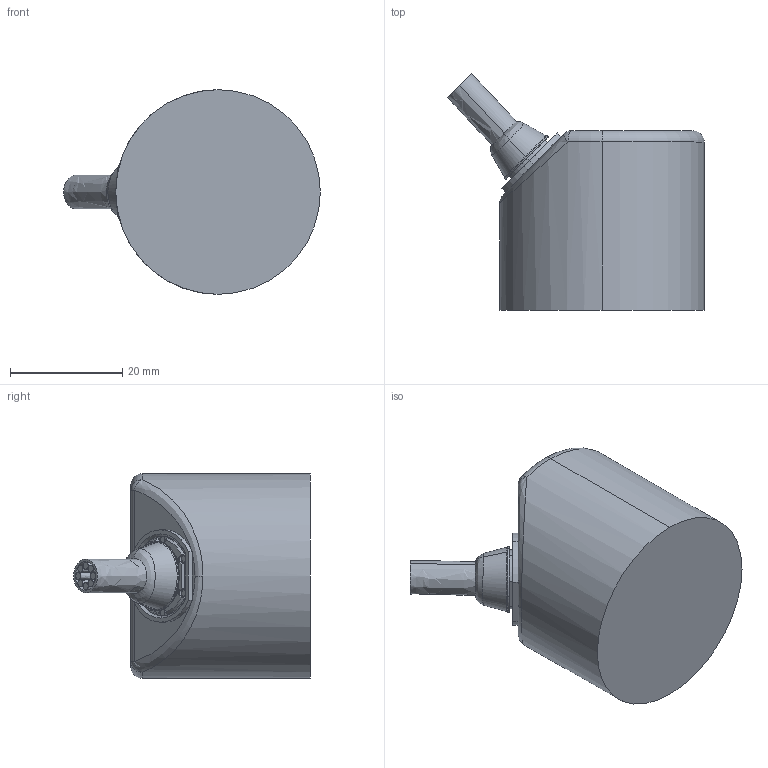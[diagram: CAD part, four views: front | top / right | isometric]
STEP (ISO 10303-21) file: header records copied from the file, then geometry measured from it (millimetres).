
FILE_DESCRIPTION (( 'STEP AP214' ), '1' );
FILE_NAME ('SWM17-08510.STEP', '2017-02-08T09:53:24', ( '' ), ( '' ), 'SwSTEP 2.0', 'SolidWorks 2015', '' );
FILE_SCHEMA (( 'AUTOMOTIVE_DESIGN' ));
Length unit declared in the file: millimetre
Products named in the file (1): SWM17-08510
Bounding box: 45.8 x 42.22 x 36.5 mm (x, y, z)
Volume: 13532.9 mm3; surface area: 11950.6 mm2
Topology: 11 solids, 12 shells, 216 faces, 551 edges, 358 vertices
Faces by surface type: plane 77, cylinder 51, cone 39, bspline 35, torus 10, sphere 4
Entity records: 12892 total; most frequent: CARTESIAN_POINT 5454, ORIENTED_EDGE 1094, DIRECTION 947, EDGE_CURVE 547, AXIS2_PLACEMENT_3D 394, VERTEX_POINT 358, EDGE_LOOP 237, UNCERTAINTY_MEASURE_WITH_UNIT 229
